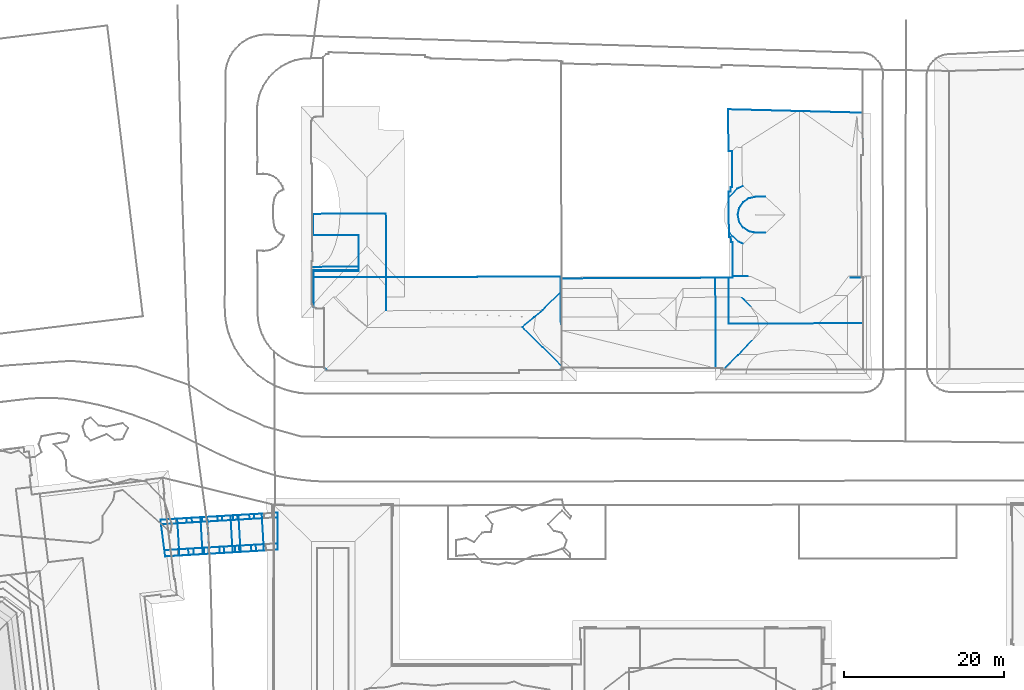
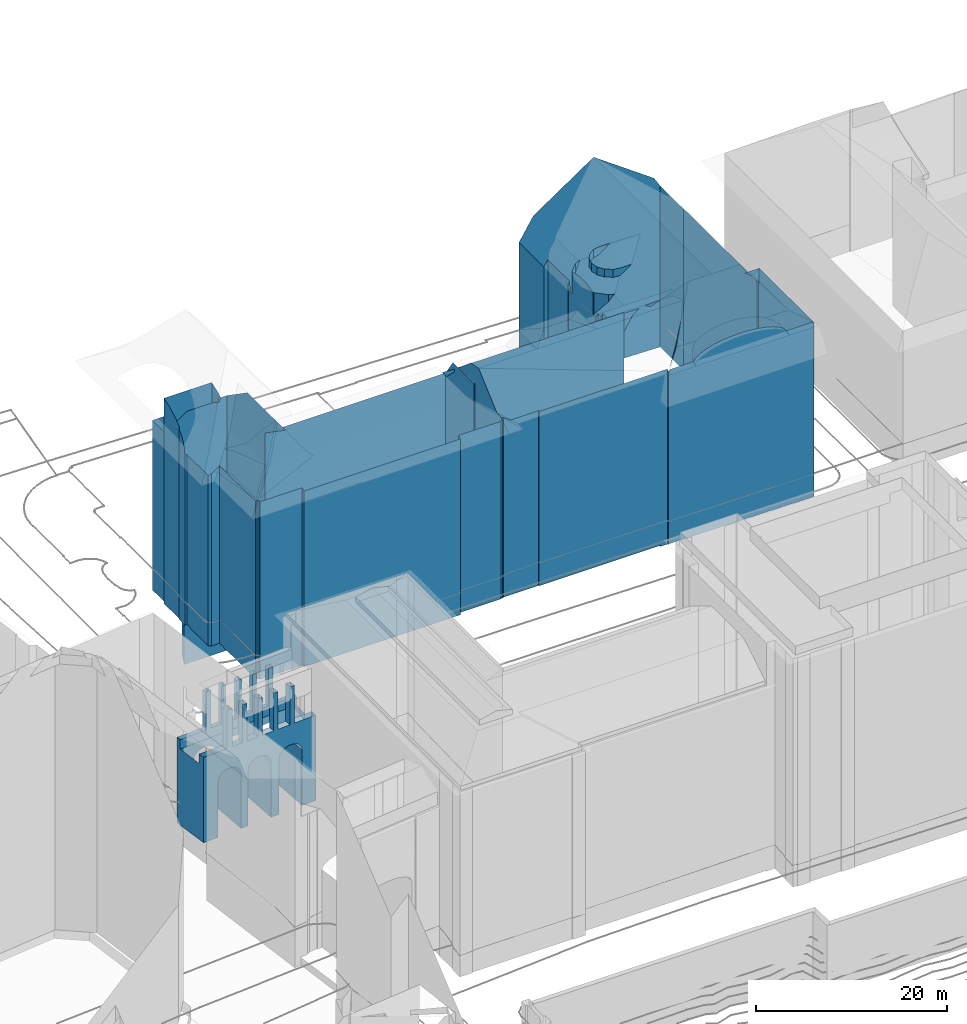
# Not in any storey, part 57 of 494: 3 walls.
"""IFC2X3 model written with IfcOpenShell, lengths in metres."""

from ifc_helpers import new_model, si_unit, frame, origin_with_axes, place, context, subcontext, project, faceted_brep, element, save


model = new_model("IFC2X3")

# Units and contexts
model_context = context("Model", 3, precision=1e-05, world=origin_with_axes())
body_context = subcontext(model_context, "Body", "Model", "MODEL_VIEW")
ifc_project = project(units=[si_unit("AREAUNIT", "SQUARE_METRE"), si_unit("LENGTHUNIT", "METRE")], contexts=[model_context])

# Walls
wall_1_placement = place(None, frame((211.8297320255, 101.9383160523, 526.7541), z_axis=(0.0, 0.0, 1.0), x_axis=(1.0, 0.0, 0.0)))
element("IfcWall", 1, at=wall_1_placement, Name="Wall 25", context=body_context, shape_type="Brep", body=[
    faceted_brep([(353.0720000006, 301.4774999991, 29.1525), (353.0250000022, 302.2637000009, 29.1525), (353.0720000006, 301.4774999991, 24.3019), (353.5730000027, 302.2969000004, 29.1525), (353.620000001, 301.5106999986, 29.1525), (353.5730000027, 302.2969000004, 24.3019), (358.9739999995, 301.8300999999, 29.1525), (358.9270000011, 302.6152000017, 24.3019), (358.9739999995, 301.8300999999, 24.3019), (359.506000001, 302.6493999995, 29.1525), (359.5529999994, 301.8641999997, 24.3019), (359.506000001, 302.6493999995, 24.3019), (355.0040000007, 301.5936999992, 29.1525), (354.9570000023, 302.378899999, 29.1525), (355.0040000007, 301.5936999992, 24.3019), (355.5089999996, 302.4111000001, 29.1525), (355.5560000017, 301.6259999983, 29.1525), (355.5089999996, 302.4111000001, 24.3019), (351.1050000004, 301.3603000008, 29.1525), (351.0580000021, 302.1464999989, 24.3019), (351.1050000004, 301.3603000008, 24.3019), (351.7259999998, 302.1865000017, 29.1525), (351.7730000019, 301.4004000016, 29.1525), (351.7259999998, 302.1865000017, 24.3019), (356.9470000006, 301.7089999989, 29.1525), (356.9000000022, 302.4941000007, 29.1525), (356.9470000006, 301.7089999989, 24.3019), (357.4279999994, 302.5263999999, 29.1525), (357.4750000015, 301.7402000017, 24.3019), (357.4279999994, 302.5263999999, 24.3019), (352.8320000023, 305.5126999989, 29.1525), (352.7970000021, 306.0907999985, 24.3019), (352.8320000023, 305.5126999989, 24.3019), (353.3450000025, 306.1240000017, 29.1525), (353.3800000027, 305.5458999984, 29.1525), (353.3450000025, 306.1229999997, 24.3019), (350.8650000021, 305.3955000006, 29.1525), (350.8300000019, 305.9745999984, 24.3019), (350.8650000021, 305.3955000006, 24.3019), (351.4979999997, 306.0146000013, 29.1525), (351.5329999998, 305.4345999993, 24.3019), (351.4979999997, 306.0146000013, 24.3019), (358.7340000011, 305.8641999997, 29.1525), (358.699000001, 306.4433000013, 24.3019), (358.7340000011, 305.8641999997, 24.3019), (359.2770000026, 306.4785000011, 29.1525), (359.3120000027, 305.8984000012, 24.3019), (359.2770000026, 306.4785000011, 24.3019), (356.7070000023, 305.7430999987, 29.1525), (356.6720000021, 306.3222999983, 24.3019), (356.7070000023, 305.7430999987, 24.3019), (357.200000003, 306.3544999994, 29.1525), (357.2349999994, 305.7754000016, 29.1525), (357.200000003, 306.3535000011, 24.3019), (354.7640000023, 305.6268999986, 29.1525), (354.7290000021, 306.2060000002, 29.1525), (354.7640000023, 305.6268999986, 24.3019), (355.2809999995, 306.2391999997, 29.1525), (355.3159999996, 305.6601000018, 24.3019), (355.2809999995, 306.2391999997, 24.3019), (351.0580000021, 302.1464999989, 29.1525), (348.0720000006, 301.9686999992, 23.1101), (348.0720000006, 301.9686999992, 24.3019), (353.0250000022, 302.2637000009, 24.3019), (354.9570000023, 302.378899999, 24.3019), (362.2330000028, 302.8125, 23.11), (358.9270000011, 302.6152000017, 29.1525), (356.9000000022, 302.4941000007, 24.3019), (362.2330000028, 302.8125, 24.3019), (359.5529999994, 301.8641999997, 29.1525), (359.9860000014, 301.8876999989, 21.4602), (362.2360000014, 302.0243999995, 23.11), (362.2360000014, 302.0243999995, 24.3019), (359.4020000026, 301.8535000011, 21.7082), (358.7550000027, 301.8154000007, 21.7082), (357.4750000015, 301.7402000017, 29.1525), (358.1720000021, 301.7811999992, 21.4602), (355.495000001, 301.6240000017, 21.7082), (355.5560000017, 301.6259999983, 24.3019), (360.3890000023, 301.9111000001, 21.0142), (362.2360000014, 302.0243999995, 13.366), (360.5340000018, 301.9208999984, 20.4573), (360.5340000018, 301.9228000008, 13.366), (356.0789999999, 301.6581999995, 21.4602), (357.768000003, 301.7578000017, 21.0142), (356.6270000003, 301.6904000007, 20.4573), (356.4820000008, 301.682599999, 21.0142), (357.6240000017, 301.7490000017, 13.366), (357.6240000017, 301.7490000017, 20.4573), (356.6270000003, 301.6893999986, 13.366), (354.8480000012, 301.5859000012, 21.7082), (353.620000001, 301.5106999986, 24.3019), (354.2650000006, 301.5527000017, 21.4602), (351.7730000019, 301.4004000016, 24.3019), (351.0879999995, 301.3652000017, 21.7082), (351.7349999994, 301.4032999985, 21.7082), (348.1730000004, 301.1854999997, 24.3019), (348.1730000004, 301.1854999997, 23.1101), (350.5040000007, 301.3310000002, 21.4602), (352.3200000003, 301.4375, 21.4602), (353.8610000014, 301.5282999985, 21.0142), (352.7239999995, 301.4609000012, 21.0143), (352.8670000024, 301.4697000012, 20.4573), (353.7170000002, 301.5166000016, 13.366), (353.7170000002, 301.5194999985, 20.4573), (352.8680000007, 301.4657999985, 13.366), (349.9570000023, 301.2998000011, 20.4573), (348.1730000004, 301.1854999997, 13.366), (349.9580000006, 301.2910000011, 13.366), (350.1009999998, 301.307599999, 21.0143), (362.2220000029, 306.0722000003, 23.11), (362.2200000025, 306.6543000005, 23.11), (362.2200000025, 306.6532999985, 24.3019), (362.2220000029, 306.0722000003, 24.3019), (362.2200000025, 306.6543000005, 13.366), (362.2330000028, 302.8125, 13.366), (347.6540000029, 305.2030999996, 23.1101), (348.0720000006, 301.9668000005, 13.366), (347.6530000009, 305.2030999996, 24.3019), (347.5789999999, 305.7793000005, 24.3019), (347.5789999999, 305.7802999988, 23.1101), (347.5789999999, 305.7802999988, 13.366), (359.3120000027, 305.8984000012, 29.1525), (357.2349999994, 305.7754000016, 24.3019), (355.3159999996, 305.6601000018, 29.1525), (353.3800000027, 305.5458999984, 24.3019), (351.5329999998, 305.4345999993, 29.1525), (350.8300000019, 305.9745999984, 29.1525), (350.2300000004, 305.9375, 21.4602), (350.8139999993, 305.9726000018, 21.7082), (349.8269999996, 305.9131000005, 21.0143), (351.4600000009, 306.0117000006, 21.7082), (352.7970000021, 306.0918000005, 29.1525), (353.5850000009, 306.1387000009, 21.0143), (354.5720000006, 306.1972000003, 21.7082), (354.7290000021, 306.2060000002, 24.3019), (355.2200000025, 306.2353000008, 21.7082), (353.9890000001, 306.1620999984, 21.4602), (352.0439999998, 306.0469000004, 21.4602), (349.6830000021, 305.9043000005, 20.4573), (349.6830000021, 305.9061999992, 13.366), (352.4480000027, 306.0703000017, 21.0143), (352.5920000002, 306.0780999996, 20.4573), (353.4409999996, 306.129900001, 20.4573), (353.4409999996, 306.1308000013, 13.366), (356.6720000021, 306.3222999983, 29.1525), (355.8040000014, 306.2705000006, 21.4602), (357.4920000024, 306.371100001, 21.0143), (358.699000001, 306.4433000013, 29.1525), (357.8960000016, 306.3955000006, 21.4602), (359.1270000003, 306.4697000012, 21.7082), (358.4790000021, 306.4305999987, 21.7082), (360.1140000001, 306.5282999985, 21.0143), (356.2060000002, 306.2939000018, 21.0143), (356.3509999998, 306.3037, 20.4573), (357.3480000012, 306.3632999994, 20.4573), (356.3509999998, 306.3046999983, 13.366), (359.7110000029, 306.504900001, 21.4602), (360.2589999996, 306.5370999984, 20.4573), (360.2589999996, 306.5370999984, 13.366), (352.5920000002, 306.0791000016, 13.366), (357.3480000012, 306.3632999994, 13.366)], [[[0, 1, 2]], [[3, 4, 5]], [[6, 7, 8]], [[9, 10, 11]], [[12, 13, 14]], [[15, 16, 17]], [[18, 19, 20]], [[21, 22, 23]], [[24, 25, 26]], [[27, 28, 29]], [[30, 31, 32]], [[33, 34, 35]], [[36, 37, 38]], [[39, 40, 41]], [[42, 43, 44]], [[45, 46, 47]], [[48, 49, 50]], [[51, 52, 53]], [[54, 55, 56]], [[57, 58, 59]], [[21, 23, 60]], [[3, 5, 1]], [[61, 19, 23]], [[19, 61, 62]], [[61, 23, 63]], [[63, 5, 61]], [[5, 64, 61]], [[61, 64, 65]], [[15, 64, 13]], [[27, 29, 25]], [[9, 11, 66]], [[67, 29, 65]], [[29, 7, 65]], [[11, 68, 65]], [[11, 65, 7]], [[67, 65, 17]], [[6, 8, 69]], [[70, 71, 10]], [[10, 71, 72]], [[73, 8, 74]], [[8, 73, 10]], [[70, 10, 73]], [[24, 28, 75]], [[76, 74, 28]], [[74, 8, 28]], [[76, 28, 26]], [[77, 26, 78]], [[14, 77, 78]], [[70, 79, 71]], [[80, 81, 82]], [[81, 80, 71]], [[76, 83, 84]], [[79, 81, 71]], [[85, 84, 86]], [[83, 76, 26]], [[87, 88, 89]], [[85, 89, 88]], [[84, 85, 88]], [[86, 84, 83]], [[77, 83, 26]], [[78, 16, 14]], [[0, 2, 4]], [[90, 14, 91]], [[90, 91, 92]], [[2, 92, 91]], [[93, 22, 20]], [[94, 95, 20]], [[20, 95, 93]], [[96, 97, 20]], [[98, 20, 97]], [[93, 95, 2]], [[99, 2, 95]], [[100, 99, 101]], [[99, 100, 92]], [[100, 101, 102]], [[103, 104, 105]], [[102, 105, 104]], [[104, 100, 102]], [[99, 92, 2]], [[98, 94, 20]], [[106, 107, 108]], [[107, 106, 97]], [[109, 97, 106]], [[98, 97, 109]], [[110, 111, 112]], [[110, 112, 113]], [[114, 111, 110]], [[65, 114, 110]], [[65, 72, 71]], [[115, 65, 80]], [[96, 62, 61]], [[116, 117, 61]], [[96, 61, 97]], [[61, 107, 97]], [[107, 61, 117]], [[118, 119, 116]], [[116, 119, 120]], [[117, 120, 121]], [[120, 117, 116]], [[42, 44, 122]], [[48, 123, 52]], [[110, 46, 44]], [[46, 110, 113]], [[110, 44, 123]], [[123, 50, 110]], [[50, 58, 110]], [[110, 58, 56]], [[58, 124, 56]], [[30, 125, 34]], [[36, 40, 126]], [[125, 32, 116]], [[32, 40, 116]], [[38, 118, 116]], [[38, 116, 40]], [[125, 116, 56]], [[56, 116, 110]], [[39, 41, 127]], [[128, 37, 129]], [[119, 37, 130]], [[129, 37, 131]], [[130, 120, 119]], [[41, 131, 37]], [[33, 35, 132]], [[133, 31, 35]], [[134, 135, 136]], [[35, 135, 137]], [[138, 41, 31]], [[55, 57, 135]], [[135, 134, 137]], [[131, 41, 138]], [[121, 139, 140]], [[121, 120, 139]], [[120, 130, 139]], [[128, 130, 37]], [[31, 133, 141]], [[141, 138, 31]], [[141, 133, 142]], [[143, 144, 142]], [[142, 133, 143]], [[133, 35, 137]], [[51, 53, 145]], [[146, 136, 59]], [[136, 135, 59]], [[49, 146, 59]], [[53, 147, 49]], [[43, 148, 47]], [[53, 43, 149]], [[47, 150, 43]], [[43, 150, 151]], [[47, 112, 152]], [[111, 152, 112]], [[43, 151, 149]], [[49, 153, 146]], [[49, 147, 153]], [[153, 147, 154]], [[155, 156, 154]], [[154, 147, 155]], [[147, 53, 149]], [[157, 150, 47]], [[152, 111, 158]], [[114, 159, 158]], [[111, 114, 158]], [[157, 47, 152]], [[143, 104, 144]], [[156, 85, 154]], [[87, 155, 88]], [[81, 158, 82]], [[139, 106, 140]], [[160, 102, 142]], [[1, 63, 2]], [[4, 91, 5]], [[66, 7, 6]], [[69, 10, 9]], [[13, 64, 14]], [[16, 78, 17]], [[60, 19, 18]], [[22, 93, 23]], [[25, 67, 26]], [[75, 28, 27]], [[132, 31, 30]], [[34, 125, 35]], [[127, 37, 36]], [[126, 40, 39]], [[148, 43, 42]], [[122, 46, 45]], [[145, 49, 48]], [[52, 123, 53]], [[55, 135, 56]], [[124, 58, 57]], [[23, 19, 60]], [[5, 63, 1]], [[64, 17, 65]], [[17, 64, 15]], [[29, 67, 25]], [[11, 7, 66]], [[8, 10, 69]], [[26, 28, 24]], [[90, 77, 14]], [[16, 12, 14]], [[2, 91, 4]], [[22, 18, 20]], [[115, 114, 65]], [[68, 72, 65]], [[65, 71, 80]], [[44, 46, 122]], [[50, 123, 48]], [[124, 54, 56]], [[32, 125, 30]], [[38, 40, 36]], [[41, 37, 127]], [[35, 31, 132]], [[57, 59, 135]], [[144, 160, 142]], [[53, 49, 145]], [[148, 45, 47]], [[161, 156, 155]], [[104, 103, 144]], [[89, 85, 156]], [[161, 155, 87]], [[158, 159, 82]], [[106, 108, 140]], [[105, 102, 160]]]),
])
wall_2_placement = place(None, frame((578.3317320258, 440.0389160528, 564.4028), z_axis=(0.0, 0.0, 1.0), x_axis=(1.0, 0.0, 0.0)))
element("IfcWall", 2, at=wall_2_placement, Name="Wall 0", context=body_context, shape_type="Brep", body=[
    faceted_brep([(0.2300000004, -1.9776000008, -24.5197), (0.2300000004, -1.9776000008, -24.3907), (9.313000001, -1.9541000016, -24.3907), (31.2880000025, -1.9004000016, -24.5195), (31.2880000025, -1.9004000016, -2.6996), (0.5650000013, -5.8819000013, -24.5197), (1.5350000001, -5.8672000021, -24.5197), (1.5350000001, -5.8672000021, -1.8078), (1.0380000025, -5.875, -2.1498), (0.5650000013, -5.8819000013, -2.4758), (1.5370000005, -7.7402999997, -1.8088), (1.5419999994, -11.4717000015, -1.8118), (1.5439999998, -13.3409000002, -24.5197), (1.6350000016, -13.3379000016, -1.7509), (1.5441000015, -13.3408000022, -1.8138), (1.6350999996, -13.3379000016, -24.5197), (1.7470000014, -13.4941999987, -24.5197), (0.2750000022, -5.7393000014, -24.5197), (0.3920000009, -5.8007999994, -24.5197), (0.3920000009, -5.8007999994, -2.5948), (0.5659999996, -5.8330000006, -2.4748), (0.5659999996, -5.8330000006, -24.5197), (31.1469999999, -13.5439999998, -24.5195), (31.1469999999, -13.5439999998, -1.7407), (31.1469999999, -13.6084000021, -24.5195), (31.3220000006, -13.5390999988, -18.8231), (31.3220000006, -13.5390999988, -13.1286), (31.3220000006, -13.5390999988, -24.5195), (1.9020000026, -13.5956999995, -1.7269), (1.813000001, -13.5371000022, -16.3465), (1.9020000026, -13.5956999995, -24.5197), (7.0190000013, -13.6787, -24.5197), (7.0190000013, -13.6787, -1.7929), (4.0240000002, -13.6856000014, -1.7919), (1.9020000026, -13.6904999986, -24.5197), (1.9020000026, -13.6904999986, -1.7919), (7.0540000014, -14.0254000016, -2.0318), (25.9930000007, -13.9677999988, -2.0249), (21.2580000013, -13.9825000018, -2.0268), (25.9930000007, -13.9677999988, -24.5197), (22.0890000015, -13.9805000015, -24.5197), (7.0540000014, -14.0254000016, -24.5197), (25.9990000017, -13.6114000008, -1.7789), (25.9990000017, -13.6114000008, -24.5197), (28.8890000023, -6.1055000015, -24.6435), (28.8880000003, -6.1064999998, -24.5195), (31.2930000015, -3.6904999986, -24.6435), (31.2930000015, -3.6904999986, -24.5195), (28.8890000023, -6.1055000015, 0.1951), (28.8890000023, -6.1055000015, 0.8711), (31.2930000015, -3.6904999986, -1.4657), (31.2930000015, -3.6904999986, -1.1777), (0.2170000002, 3.2938999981, -2.6997), (0.2100000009, 5.9569999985, -2.6997), (0.2170000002, 3.2938999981, -24.3907), (9.2939999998, 5.9794999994, -2.6997), (0.2100000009, 5.9569999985, -24.3907), (0.2390000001, -5.7080000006, -24.5197), (0.2390000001, -5.7080000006, -13.6227), (31.3210000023, -13.1493999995, -24.5195), (28.9000000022, -10.7422000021, -24.5195), (31.3210000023, -13.1493999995, -24.6435), (28.9000000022, -10.7422000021, -24.6435), (26.3839999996, -8.1865999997, -24.5197), (26.3839999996, -8.1865999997, -24.6437), (0.0, 0.0223999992, 0.019), (0.0329999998, 0.0223999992, 0.019), (0.0, 0.0223999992, -6.1094), (0.0, 0.0223999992, -12.2368), (0.0, 0.0225000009, -24.4917), (0.0980000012, 0.0234000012, -6.1084), (0.0980000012, 0.0234000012, -18.3642), (0.0980000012, 0.0234000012, -24.4917), (0.0020000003, -0.6777999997, -24.4917), (5.8859999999, -0.6631000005, -24.4917), (0.0020000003, -0.6777999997, -28.6853), (0.0879999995, 3.2938999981, 1.7858), (0.0879999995, 3.2938999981, -24.4917), (2.8819999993, 3.3007999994, -0.8639), (5.876000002, 3.307599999, -24.4917), (5.876000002, 3.307599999, 1.7858), (5.876000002, 3.307599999, -0.8639), (0.2390000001, -5.7080000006, -2.6998), (0.2300000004, -1.9776000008, -2.6977), (0.2280000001, -1.2353999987, -2.6967), (0.2280000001, -1.2353999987, -24.3907), (27.8440000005, -6.9737000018, 1.6008), (27.8539000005, -6.9649000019, 1.5997), (9.3040000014, 1.7811999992, -24.3907), (9.2939999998, 5.9794999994, -24.3907), (9.3040000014, 1.7811999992, 0.195), (9.313000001, -1.9541000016, -2.6998), (9.324000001, -6.1533000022, 0.195), (0.0040000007, -1.0947999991, -24.4917), (0.0040000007, -1.0947999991, -29.5932), (0.0020000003, -0.6777999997, -0.8389), (0.0, 0.0, 0.0), (0.0040000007, -1.0947999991, -1.7468), (0.0950000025, 0.9131000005, -24.4917), (0.0920000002, 2.0243999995, -24.4917), (0.0950000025, 0.9131000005, 0.7349), (0.0920000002, 2.0243999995, 1.3379), (0.0980000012, 0.0234000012, 0.019), (5.8790000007, 2.0390000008, 1.3379), (5.8800000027, 1.7723999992, 0.195), (5.881000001, 1.4510999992, 1.0189), (5.887000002, -1.2217000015, -24.3907), (5.876000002, 3.307599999, -24.3907), (5.887000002, -1.0811000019, -24.4917), (5.8859999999, -0.6631000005, -28.6853), (5.887000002, -1.0811000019, -29.5952), (31.3060000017, -8.0782000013, -24.6435), (31.3220000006, -13.5390999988, -7.4332), (31.3029999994, -6.9571000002, 1.6), (31.3080000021, -8.6308999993, 1.9179), (31.319000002, -12.4101999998, -1.4687), (31.3220000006, -13.5390999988, -1.7377), (31.3210000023, -13.1493999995, -1.4687), (0.0040000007, -1.2364000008, -24.4917), (0.0040000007, -1.2364000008, -2.6947), (1.7474000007, -13.4930999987, -1.6739), (1.7631999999, -13.5036999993, -1.6629), (5.887000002, -1.2217000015, -24.4917), (0.2750000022, -5.7393000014, -2.6748), (31.1469999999, -13.6084000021, -1.7847)], [[[0, 1, 2]], [[3, 2, 4]], [[2, 3, 0]], [[5, 6, 7]], [[8, 9, 5]], [[10, 6, 11]], [[7, 6, 10]], [[11, 6, 12]], [[13, 14, 15]], [[14, 12, 15]], [[13, 15, 16]], [[17, 18, 19]], [[20, 19, 21]], [[22, 23, 24]], [[25, 26, 23]], [[25, 23, 27]], [[28, 29, 30]], [[30, 29, 16]], [[31, 32, 33]], [[34, 33, 35]], [[32, 31, 36]], [[37, 38, 39]], [[38, 36, 39]], [[40, 39, 36]], [[36, 41, 40]], [[37, 39, 42]], [[42, 39, 43]], [[44, 45, 46]], [[47, 46, 45]], [[48, 49, 50]], [[51, 50, 49]], [[52, 53, 54]], [[53, 55, 56]], [[57, 17, 58]], [[20, 21, 9]], [[9, 21, 5]], [[35, 28, 34]], [[34, 28, 30]], [[59, 60, 61]], [[61, 60, 62]], [[62, 63, 64]], [[63, 62, 60]], [[65, 66, 67]], [[68, 67, 66]], [[69, 68, 66]], [[66, 70, 71]], [[66, 72, 69]], [[73, 74, 75]], [[76, 52, 77]], [[52, 76, 78]], [[77, 54, 79]], [[80, 81, 78]], [[80, 78, 76]], [[58, 82, 83]], [[57, 58, 1]], [[84, 85, 83]], [[1, 0, 57]], [[83, 1, 58]], [[86, 87, 48]], [[49, 48, 87]], [[64, 63, 45]], [[45, 44, 64]], [[88, 55, 2]], [[55, 88, 89]], [[55, 90, 91]], [[92, 91, 90]], [[55, 91, 2]], [[75, 93, 73]], [[73, 93, 68]], [[69, 73, 68]], [[93, 75, 94]], [[95, 96, 65]], [[95, 65, 67]], [[68, 97, 67]], [[67, 97, 95]], [[93, 97, 68]], [[72, 71, 98]], [[99, 98, 71]], [[77, 99, 71]], [[71, 70, 77]], [[70, 100, 101]], [[70, 101, 76]], [[70, 102, 100]], [[70, 76, 77]], [[80, 103, 81]], [[81, 103, 104]], [[104, 103, 105]], [[106, 74, 79]], [[79, 107, 106]], [[74, 106, 108]], [[109, 74, 108]], [[108, 110, 109]], [[111, 47, 25]], [[3, 26, 47]], [[46, 47, 111]], [[59, 61, 111]], [[25, 27, 59]], [[111, 25, 59]], [[112, 3, 4]], [[50, 51, 113]], [[114, 115, 50]], [[114, 50, 113]], [[115, 112, 4]], [[47, 26, 25]], [[115, 116, 112]], [[26, 3, 112]], [[116, 115, 117]], [[50, 115, 4]], [[97, 118, 119]], [[97, 93, 118]], [[108, 94, 110]], [[93, 94, 108]], [[120, 16, 121]], [[122, 106, 85]], [[85, 119, 118]], [[119, 85, 84]], [[85, 118, 122]], [[108, 106, 122]], [[2, 91, 4]], [[8, 5, 7]], [[12, 14, 11]], [[19, 123, 17]], [[19, 18, 21]], [[124, 42, 43]], [[24, 124, 43]], [[124, 24, 23]], [[116, 23, 112]], [[26, 112, 23]], [[23, 22, 27]], [[28, 121, 29]], [[121, 16, 29]], [[31, 33, 34]], [[41, 36, 31]], [[53, 56, 54]], [[55, 89, 56]], [[120, 13, 16]], [[82, 17, 123]], [[17, 82, 58]], [[66, 71, 72]], [[102, 70, 66]], [[74, 109, 75]], [[52, 54, 77]], [[54, 107, 79]], [[85, 1, 83]]]),
])
wall_3_placement = place(None, frame((609.5167320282, 438.1375160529, 539.7593), z_axis=(0.0, 0.0, 1.0), x_axis=(1.0, 0.0, 0.0)))
element("IfcWall", 3, at=wall_3_placement, Name="Wall 0", context=body_context, shape_type="Brep", body=[
    faceted_brep([(0.1209999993, -5.9228000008, 0.0), (0.1209999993, -5.9228000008, 24.1587), (0.0149999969, -5.9228000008, 24.1587), (0.1030000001, 0.0, 21.9439), (0.1030000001, -0.1074000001, 22.1049), (0.1030000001, 0.0, 0.0), (0.1039999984, -0.2598999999, 22.3299), (0.1039999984, -0.2598999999, 0.0), (0.0, 0.0, 21.9439), (0.0, 0.0, 0.0), (21.5199999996, 0.052699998, 19.4171), (21.5199999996, 0.052699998, 21.9439), (22.731999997, 0.0566000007, 21.4279), (23.4599999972, 0.058600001, 21.9439), (22.3169999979, -9.6807000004, 23.2977), (23.935999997, -7.9726999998, 25.3945), (22.2089999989, -9.7949000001, 23.7657), (22.2089999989, -9.7949000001, 23.2387), (20.5009999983, -11.4307000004, 22.3028), (4.6939999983, -11.4638999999, 22.3088), (4.6939999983, -11.3838, 0.0), (4.6939999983, -11.4638999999, 0.0), (0.3039999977, -11.4131000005, 0.0), (0.3039999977, -11.4131000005, 0.124), (0.1359999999, -11.2479999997, 0.124), (0.1359999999, -11.2479999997, 0.0), (22.6569999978, -2.5487999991, 24.1587), (23.8159999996, -3.7168000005, 25.1556), (23.0949999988, -2.9912, 24.1587), (0.305999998, -11.4111000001, 5.8584), (0.3129999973, -11.6317000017, 22.9078), (0.305999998, -11.4110000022, 0.124), (0.305999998, -11.4111000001, 11.5919), (4.5319999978, -0.1816000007, 22.2309), (4.5319999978, -0.1816000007, 0.0), (19.3759999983, -11.442400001, 0.0), (19.3479999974, -0.1455000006, 0.0), (19.3479999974, -0.1455000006, -0.121), (19.3759999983, -11.442400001, -0.121), (37.8429999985, -0.1074000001, 22.1238), (37.1169999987, -0.1084000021, 21.4279), (36.1359999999, -0.1103000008, 22.1238), (37.8429999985, -0.1074000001, 20.224), (21.0249999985, 10.6259999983, 18.6392), (21.2769999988, 10.6259999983, -0.43), (21.0249999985, 10.6259999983, -0.43), (21.2919999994, 4.9384000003, -0.43), (21.2919999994, 4.9384999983, 19.0592), (21.050999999, 4.9355999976, 18.6592), (21.050999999, 4.9355999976, -0.43), (21.498999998, 4.3388999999, -0.43), (21.498999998, 4.3388999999, 19.4001), (21.299999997, 4.3378999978, -0.43), (21.299999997, 4.3378999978, 19.0702), (20.9859999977, 15.7421999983, 18.5952), (20.9729999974, 20.9512000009, -0.4299), (20.9859999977, 15.7421999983, -0.43), (20.9729999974, 20.9512000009, 18.5952), (21.4569999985, 15.7274999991, -0.43), (21.4569999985, 15.7274999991, 19.3761), (37.6539999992, -0.0898000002, 20.537), (37.8429999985, -0.0751999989, 14.9815), (37.6539999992, -0.0898000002, -0.43), (37.8429999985, -0.0751999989, -0.43), (37.8429999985, -0.0751999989, 20.224), (37.612999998, 15.245099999, 20.542), (37.8229999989, 15.2392999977, -0.43), (37.8229999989, 15.2392999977, 20.1941), (37.805999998, 20.5243999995, 4.6196), (37.8139999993, 18.1405999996, 20.1981), (37.8149999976, 17.7168000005, -0.43), (37.805999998, 20.5243999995, 20.2011), (37.805999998, 20.5243999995, 15.0436), (37.805999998, 20.5243999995, 9.899), (37.805999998, 20.5243999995, -0.43), (23.5359999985, 9.8183999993, 23.5097), (23.9179999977, 9.8955000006, 22.5068), (23.5359999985, 9.8183999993, 22.4608), (24.3929999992, 9.990199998, 23.5097), (24.3929999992, 9.990199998, 22.6228), (24.1919999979, 9.9501999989, 22.4798), (22.8099999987, 9.3310999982, 22.4608), (22.8099999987, 9.3310999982, 23.5097), (23.1329999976, 9.5478999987, 22.5078), (22.3249999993, 8.6035000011, 22.4608), (22.3249999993, 8.6035000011, 23.5097), (22.5409999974, 8.9267999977, 22.5078), (21.0389999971, -5.8720999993, -0.121), (21.0249999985, -0.1416000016, -0.121), (21.0389999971, -5.8720999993, -0.43), (22.1559999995, 7.745099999, 22.4608), (22.1559999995, 7.745099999, 23.5097), (22.2309999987, 8.1270000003, 22.5068), (22.3269999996, 6.8887000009, 22.4598), (22.3269999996, 6.8887000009, 23.5097), (22.2509999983, 7.2694999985, 22.5068), (22.8139999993, 6.1620999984, 22.4608), (22.8139999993, 6.1620999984, 23.5097), (22.5969999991, 6.4853999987, 22.5068), (23.5419999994, 5.6767999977, 22.4608), (23.5419999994, 5.6767999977, 23.5097), (23.2179999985, 5.8935999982, 22.5068), (24.3999999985, 5.5077999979, 22.6198), (24.0179999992, 5.5830000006, 22.5068), (24.2089999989, 5.5458999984, 22.4838), (24.3999999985, 5.5077999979, 23.5097), (25.6559999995, 5.5097999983, 23.5097), (25.6449999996, 9.9921999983, 23.5097), (21.112999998, 5.442400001, 21.5219), (21.0479999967, 5.5888999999, 21.5219), (21.112999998, 5.442400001, 18.7642), (22.2449999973, 4.3612999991, 20.637), (22.2449999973, 4.3612999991, 21.5219), (22.0889999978, 11.0331999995, 20.406), (22.0889999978, 11.0331999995, 21.5219), (22.7049999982, 11.3057000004, 21.4279), (22.8369999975, 11.3632999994, 21.5219), (21.0279999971, 9.9208999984, 18.6422), (21.0279999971, 9.9208999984, 21.5219), (22.7219999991, 4.1757999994, 21.4279), (22.8549999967, 4.125, 21.5219), (0.0149999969, -5.9228000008, 0.0), (0.0039999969, -1.4941000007, 0.0), (0.0039999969, -1.4941000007, 24.1587), (21.5209999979, -0.1405999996, 22.2319), (21.5209999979, -0.1405999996, -0.43), (20.2369999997, -11.634800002, 0.0), (20.2359999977, -11.6445000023, 22.1118), (20.2529999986, -11.441399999, -0.121), (20.2359999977, -11.6445000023, -0.121), (20.2369999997, -11.634800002, 22.1208), (20.2359999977, -11.6445000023, 22.1588), (20.2409999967, -11.5898000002, 22.1608), (20.2529999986, -11.441399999, 22.2938), (0.1369999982, -11.6376999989, 22.9058), (0.3129999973, -11.6317999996, 0.124), (0.1369999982, -11.6376999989, 0.124), (1.3079999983, -11.4061999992, 22.3678), (4.6939999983, -11.3838, 22.3808), (0.305999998, -11.4111000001, 23.0598), (37.8439999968, -0.2987999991, 22.2248), (37.856999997, -5.8300999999, -0.121), (37.8699999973, -11.6112999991, 22.2258), (37.8559999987, -5.8300999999, -0.43), (37.8699999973, -11.6112999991, -0.121), (33.6719999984, -11.620099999, 23.0537), (34.5309999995, -11.6182000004, 22.3248), (34.2039999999, -11.6191000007, 22.7048), (31.0909999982, -11.625, 23.7997), (32.0859999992, -11.6229999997, 22.2838), (32.0849999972, -11.6229999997, 23.6127), (30.0119999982, -11.6269000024, 23.9147), (30.0119999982, -11.6269000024, 22.2848), (37.0659999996, 20.5429999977, 21.4279), (22.680999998, 20.9081999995, 21.428), (29.873999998, 20.7256000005, 26.5265), (37.0659999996, 20.5429999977, -0.43), (29.873999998, 20.7256000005, -0.43), (22.680999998, 20.9081999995, -0.4299), (20.1369999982, -0.1435000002, -0.121), (21.0249999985, -0.1416000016, -0.43), (29.9389999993, -5.8496000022, -0.43), (29.9389999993, -5.8496000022, -0.121), (22.7469999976, -5.8672000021, -0.121), (22.7469999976, -5.8672000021, -0.43), (21.0479999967, 5.5888999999, 18.6572), (21.0409999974, 6.998999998, 21.8339), (21.0350000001, 8.3359000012, 21.8479), (21.0279999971, 9.8867000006, 21.5349), (0.1229999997, -6.7294999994, 26.5614), (0.1109999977, -2.6035000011, 24.1587), (0.1339999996, -10.5088, 23.1748), (0.1359999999, -11.2479999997, 23.1748), (0.117999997, -5.0557000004, 26.2435), (0.1229999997, -6.7294999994, 0.0), (19.4489999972, -11.442400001, 22.2948), (18.560999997, -11.4433999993, 22.2958), (18.560999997, -11.4433999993, 0.0), (37.7669999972, -11.6112999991, 22.2817), (34.5429999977, -11.6180999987, 22.2827), (37.7669999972, -11.6112999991, -0.121), (32.9569999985, -11.621100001, 23.3607), (28.8889999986, -11.628899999, 23.9537), (27.7669999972, -11.6308999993, 23.9147), (26.6879999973, -11.6328000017, 23.7997), (25.693, -11.634800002, 23.6127), (24.8219999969, -11.6367000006, 23.3607), (23.2359999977, -11.6396000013, 22.2868), (24.1059999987, -11.6376999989, 23.0538), (23.5749999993, -11.6387000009, 22.7048), (23.2469999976, -11.6396000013, 22.3248), (20.4719999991, -11.6445000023, 22.2878), (21.2769999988, 11.2294999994, 19.0602), (21.4759999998, 11.2304999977, -0.43), (21.2769999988, 11.2294999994, -0.43), (21.4759999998, 11.2304999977, 19.3901), (21.2769999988, 10.6259999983, 19.0572), (37.612999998, 15.245099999, -0.43)], [[[0, 1, 2]], [[3, 4, 5]], [[6, 7, 4]], [[8, 5, 9]], [[5, 8, 3]], [[10, 11, 12]], [[13, 12, 11]], [[14, 15, 16]], [[16, 17, 14]], [[16, 18, 17]], [[19, 20, 21]], [[22, 23, 24]], [[24, 25, 22]], [[26, 27, 28]], [[29, 30, 31]], [[29, 32, 30]], [[6, 33, 34]], [[34, 7, 6]], [[35, 36, 37]], [[35, 37, 38]], [[39, 40, 41]], [[39, 42, 40]], [[43, 44, 45]], [[46, 47, 48]], [[49, 46, 48]], [[50, 51, 52]], [[53, 52, 51]], [[54, 55, 56]], [[55, 54, 57]], [[56, 58, 59]], [[60, 61, 62]], [[62, 61, 63]], [[60, 64, 61]], [[65, 60, 62]], [[65, 66, 67]], [[68, 69, 70]], [[71, 69, 72]], [[73, 69, 68]], [[68, 70, 74]], [[67, 66, 69]], [[69, 66, 70]], [[75, 76, 77]], [[76, 75, 78]], [[76, 79, 80]], [[79, 76, 78]], [[81, 82, 83]], [[83, 75, 77]], [[75, 83, 82]], [[84, 85, 86]], [[86, 82, 81]], [[82, 86, 85]], [[87, 88, 89]], [[90, 91, 92]], [[92, 85, 84]], [[85, 92, 91]], [[93, 94, 95]], [[95, 91, 90]], [[91, 95, 94]], [[96, 97, 98]], [[98, 94, 93]], [[94, 98, 97]], [[99, 100, 101]], [[101, 97, 96]], [[97, 101, 100]], [[102, 103, 104]], [[103, 102, 105]], [[103, 100, 99]], [[100, 103, 105]], [[106, 105, 102]], [[78, 107, 79]], [[108, 109, 110]], [[111, 112, 108]], [[108, 110, 111]], [[113, 114, 115]], [[116, 115, 114]], [[117, 118, 113]], [[114, 113, 118]], [[119, 120, 112]], [[112, 111, 119]], [[121, 2, 122]], [[8, 9, 122]], [[8, 122, 123]], [[11, 10, 124]], [[124, 10, 125]], [[51, 125, 10]], [[51, 50, 125]], [[126, 127, 128]], [[128, 129, 126]], [[127, 130, 128]], [[131, 132, 130]], [[132, 128, 130]], [[128, 132, 133]], [[30, 134, 135]], [[135, 134, 136]], [[32, 20, 137]], [[137, 20, 138]], [[137, 139, 32]], [[32, 29, 20]], [[31, 22, 20]], [[31, 20, 29]], [[42, 39, 140]], [[64, 42, 61]], [[141, 63, 61]], [[42, 142, 61]], [[140, 142, 42]], [[63, 141, 143]], [[61, 142, 141]], [[142, 144, 141]], [[145, 146, 147]], [[148, 149, 150]], [[151, 152, 149]], [[151, 149, 148]], [[153, 71, 72]], [[153, 72, 154]], [[153, 154, 155]], [[154, 72, 57]], [[72, 73, 57]], [[68, 74, 156]], [[73, 68, 157]], [[55, 57, 158]], [[158, 57, 157]], [[68, 156, 157]], [[57, 73, 157]], [[36, 34, 124]], [[159, 36, 124]], [[159, 37, 36]], [[125, 160, 88]], [[88, 124, 125]], [[88, 159, 124]], [[34, 33, 124]], [[143, 141, 161]], [[161, 141, 162]], [[162, 163, 164]], [[163, 89, 164]], [[89, 163, 87]], [[162, 164, 161]], [[165, 109, 166]], [[165, 166, 167]], [[48, 165, 49]], [[117, 49, 165]], [[117, 165, 167]], [[117, 168, 118]], [[49, 117, 43]], [[43, 45, 49]], [[117, 167, 168]], [[1, 169, 170]], [[169, 1, 171]], [[134, 172, 171]], [[134, 171, 0]], [[1, 0, 171]], [[170, 169, 173]], [[174, 134, 0]], [[136, 134, 24]], [[174, 25, 24]], [[134, 174, 24]], [[128, 175, 35]], [[175, 128, 133]], [[38, 128, 35]], [[35, 175, 176]], [[19, 21, 177]], [[35, 176, 177]], [[177, 176, 19]], [[142, 178, 179]], [[142, 179, 180]], [[181, 150, 149]], [[146, 145, 180]], [[144, 142, 180]], [[180, 179, 146]], [[149, 145, 181]], [[152, 180, 149]], [[180, 145, 149]], [[180, 152, 126]], [[151, 182, 152]], [[152, 183, 184]], [[184, 185, 152]], [[186, 152, 185]], [[187, 186, 188]], [[188, 189, 187]], [[186, 187, 152]], [[189, 190, 187]], [[126, 187, 127]], [[152, 187, 126]], [[191, 127, 187]], [[152, 182, 183]], [[2, 121, 0]], [[5, 4, 7]], [[138, 20, 19]], [[139, 30, 32]], [[31, 30, 135]], [[192, 193, 194]], [[195, 193, 192]], [[44, 196, 192]], [[192, 194, 44]], [[196, 44, 43]], [[52, 47, 46]], [[47, 52, 53]], [[59, 54, 56]], [[195, 58, 193]], [[59, 58, 195]], [[197, 65, 62]], [[65, 197, 66]], [[69, 73, 72]], [[88, 160, 89]], [[109, 165, 110]], [[2, 123, 122]], [[22, 31, 23]]]),
])

save(model, "model.ifc")
